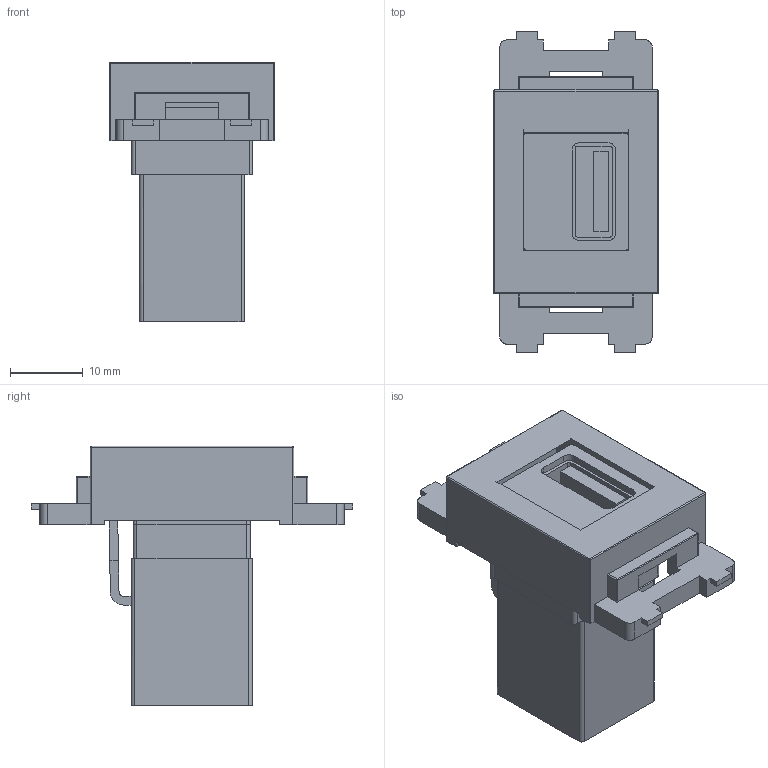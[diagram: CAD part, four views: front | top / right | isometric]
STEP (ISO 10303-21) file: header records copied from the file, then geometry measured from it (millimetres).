
FILE_DESCRIPTION(('FreeCAD Model'),'2;1');
FILE_NAME('Open CASCADE Shape Model','2026-05-12T09:33:43',(''),(''), 'Open CASCADE STEP processor 7.8','FreeCAD','Unknown');
FILE_SCHEMA(('AUTOMOTIVE_DESIGN { 1 0 10303 214 1 1 1 1 }'));
Length unit declared in the file: millimetre
Products named in the file (3): CC_USB3A_ST_XX_KV; SY-NWT-KV-xx; FAU3-AFAF180-xx-ABS
Assembly tree (2 placements, depth 2):
  CC_USB3A_ST_XX_KV
    SY-NWT-KV-xx
    FAU3-AFAF180-xx-ABS
Bounding box: 22.65 x 44.3 x 35.8 mm (x, y, z)
Volume: 11446.8 mm3; surface area: 8729 mm2
Topology: 2 solids, 2 shells, 225 faces, 618 edges, 402 vertices
Faces by surface type: bspline 225
Entity records: 10076 total; most frequent: CARTESIAN_POINT 6265, ORIENTED_EDGE 1236, EDGE_CURVE 618, B_SPLINE_CURVE_WITH_KNOTS 618, VERTEX_POINT 402, FACE_BOUND 236, EDGE_LOOP 236, ADVANCED_FACE 225
